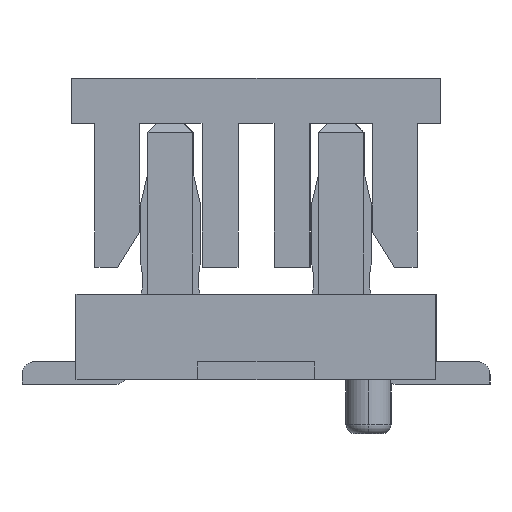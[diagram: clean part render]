
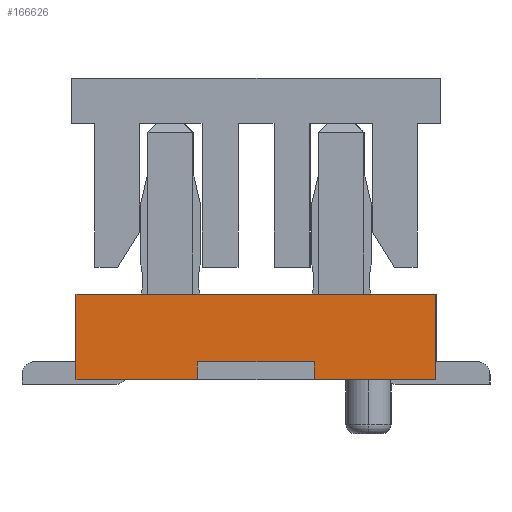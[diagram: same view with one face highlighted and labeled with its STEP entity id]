
A CAD part, left-side view. The second image highlights one B-rep face of the part: STEP entity #166626.
In plain terms, the highlighted planar face has unit normal (-1, 0, 0).
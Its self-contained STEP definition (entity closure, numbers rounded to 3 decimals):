
#637 = LINE ( 'NONE', #122993, #57629 ) ;
#8821 = CARTESIAN_POINT ( 'NONE',  ( -4.15, -2., 0.475 ) ) ;
#12535 = CARTESIAN_POINT ( 'NONE',  ( -4.15, -2., 0.95 ) ) ;
#15956 = EDGE_CURVE ( 'NONE', #156699, #116905, #72797, .T. ) ;
#16888 = VERTEX_POINT ( 'NONE', #139412 ) ;
#18917 = CARTESIAN_POINT ( 'NONE',  ( -4.15, 0.65, 0. ) ) ;
#19708 = VERTEX_POINT ( 'NONE', #131221 ) ;
#20830 = ORIENTED_EDGE ( 'NONE', *, *, #75197, .F. ) ;
#20908 = DIRECTION ( 'NONE',  ( 0., 1., 0. ) ) ;
#23469 = CARTESIAN_POINT ( 'NONE',  ( -4.15, -0.65, 0.1 ) ) ;
#29906 = CARTESIAN_POINT ( 'NONE',  ( -4.15, 0., 0. ) ) ;
#31842 = LINE ( 'NONE', #85158, #114007 ) ;
#32896 = ORIENTED_EDGE ( 'NONE', *, *, #105663, .T. ) ;
#33296 = VECTOR ( 'NONE', #20908, 1000. ) ;
#33543 = EDGE_LOOP ( 'NONE', ( #32896, #81439, #53622, #70819, #20830, #52397, #48765, #136943 ) ) ;
#36711 = VERTEX_POINT ( 'NONE', #116779 ) ;
#39112 = DIRECTION ( 'NONE',  ( 0., 0., 1. ) ) ;
#42393 = CARTESIAN_POINT ( 'NONE',  ( -4.15, 0., 0.2 ) ) ;
#48765 = ORIENTED_EDGE ( 'NONE', *, *, #107440, .F. ) ;
#48993 = DIRECTION ( 'NONE',  ( 0., 0., -1. ) ) ;
#52397 = ORIENTED_EDGE ( 'NONE', *, *, #68764, .F. ) ;
#53622 = ORIENTED_EDGE ( 'NONE', *, *, #170569, .F. ) ;
#53877 = VERTEX_POINT ( 'NONE', #76542 ) ;
#54162 = AXIS2_PLACEMENT_3D ( 'NONE', #29906, #148791, #79757 ) ;
#57629 = VECTOR ( 'NONE', #39112, 1000. ) ;
#60249 = CARTESIAN_POINT ( 'NONE',  ( -4.15, 1.325, 0. ) ) ;
#67341 = LINE ( 'NONE', #120681, #89682 ) ;
#68764 = EDGE_CURVE ( 'NONE', #19708, #156138, #67341, .T. ) ;
#70819 = ORIENTED_EDGE ( 'NONE', *, *, #15956, .F. ) ;
#72797 = LINE ( 'NONE', #85939, #76194 ) ;
#75197 = EDGE_CURVE ( 'NONE', #156138, #156699, #128557, .T. ) ;
#76194 = VECTOR ( 'NONE', #126147, 1000. ) ;
#76542 = CARTESIAN_POINT ( 'NONE',  ( -4.15, -0.65, 0.2 ) ) ;
#76632 = VECTOR ( 'NONE', #105606, 1000. ) ;
#79757 = DIRECTION ( 'NONE',  ( 0., 1., 0. ) ) ;
#81439 = ORIENTED_EDGE ( 'NONE', *, *, #153341, .F. ) ;
#85158 = CARTESIAN_POINT ( 'NONE',  ( -4.15, 2., 0.475 ) ) ;
#85939 = CARTESIAN_POINT ( 'NONE',  ( -4.15, -1.325, 0. ) ) ;
#89682 = VECTOR ( 'NONE', #105800, 1000. ) ;
#105606 = DIRECTION ( 'NONE',  ( 0., 0., 1. ) ) ;
#105663 = EDGE_CURVE ( 'NONE', #151881, #36711, #637, .T. ) ;
#105800 = DIRECTION ( 'NONE',  ( 0., -1., 0. ) ) ;
#107440 = EDGE_CURVE ( 'NONE', #16888, #19708, #31842, .T. ) ;
#108253 = EDGE_CURVE ( 'NONE', #151881, #16888, #129256, .T. ) ;
#114007 = VECTOR ( 'NONE', #126240, 1000. ) ;
#116779 = CARTESIAN_POINT ( 'NONE',  ( -4.15, 0.65, 0.2 ) ) ;
#116905 = VERTEX_POINT ( 'NONE', #143035 ) ;
#120681 = CARTESIAN_POINT ( 'NONE',  ( -4.15, 0., 0.95 ) ) ;
#121010 = VECTOR ( 'NONE', #135048, 1000. ) ;
#122993 = CARTESIAN_POINT ( 'NONE',  ( -4.15, 0.65, 0.1 ) ) ;
#126147 = DIRECTION ( 'NONE',  ( 0., 1., 0. ) ) ;
#126240 = DIRECTION ( 'NONE',  ( 0., 0., 1. ) ) ;
#128557 = LINE ( 'NONE', #8821, #149743 ) ;
#129256 = LINE ( 'NONE', #60249, #33296 ) ;
#131221 = CARTESIAN_POINT ( 'NONE',  ( -4.15, 2., 0.95 ) ) ;
#133953 = PLANE ( 'NONE',  #54162 ) ;
#135048 = DIRECTION ( 'NONE',  ( 0., 1., 0. ) ) ;
#136943 = ORIENTED_EDGE ( 'NONE', *, *, #108253, .F. ) ;
#139412 = CARTESIAN_POINT ( 'NONE',  ( -4.15, 2., 0. ) ) ;
#143035 = CARTESIAN_POINT ( 'NONE',  ( -4.15, -0.65, 0. ) ) ;
#146440 = LINE ( 'NONE', #42393, #121010 ) ;
#148791 = DIRECTION ( 'NONE',  ( 1., 0., 0. ) ) ;
#149743 = VECTOR ( 'NONE', #48993, 1000. ) ;
#151881 = VERTEX_POINT ( 'NONE', #18917 ) ;
#153341 = EDGE_CURVE ( 'NONE', #53877, #36711, #146440, .T. ) ;
#156138 = VERTEX_POINT ( 'NONE', #12535 ) ;
#156699 = VERTEX_POINT ( 'NONE', #163488 ) ;
#160173 = FACE_OUTER_BOUND ( 'NONE', #33543, .T. ) ;
#163488 = CARTESIAN_POINT ( 'NONE',  ( -4.15, -2., 0. ) ) ;
#166626 = ADVANCED_FACE ( 'NONE', ( #160173 ), #133953, .F. ) ;
#169495 = LINE ( 'NONE', #23469, #76632 ) ;
#170569 = EDGE_CURVE ( 'NONE', #116905, #53877, #169495, .T. ) ;
